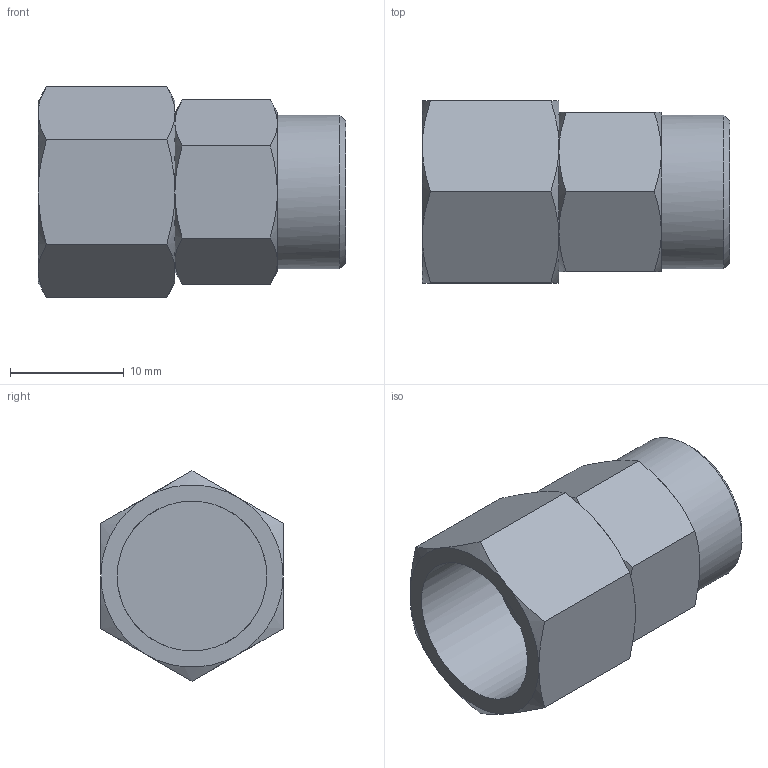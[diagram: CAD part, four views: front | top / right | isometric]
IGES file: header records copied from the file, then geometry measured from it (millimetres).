
Global section: file name: [05] H5-G2F; native system: Autodesk Inventor 2014; preprocessor: unknown; author: kazuhiro.t; date: 20130805.145148; units: millimetre
Bounding box: 27 x 16 x 18.48 mm (x, y, z)
Volume: 3376.8 mm3; surface area: 2367.9 mm2
Topology: 1 solids, 1 shells, 46 faces, 99 edges, 59 vertices
Faces by surface type: bspline 46
